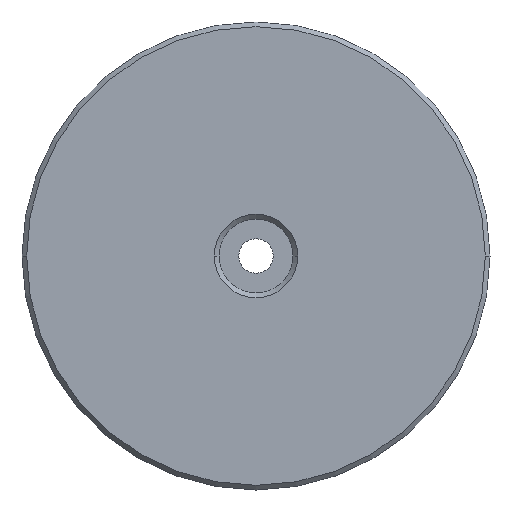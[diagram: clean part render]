
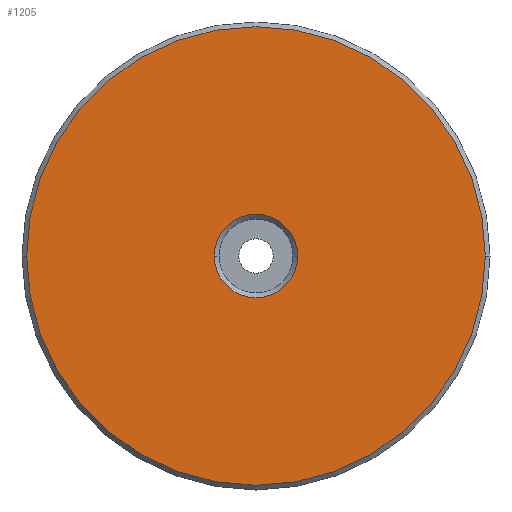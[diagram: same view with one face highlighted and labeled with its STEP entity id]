
A CAD part, front view. The second image highlights one B-rep face of the part: STEP entity #1205.
In plain terms, the highlighted planar face has unit normal (0, -1, 0).
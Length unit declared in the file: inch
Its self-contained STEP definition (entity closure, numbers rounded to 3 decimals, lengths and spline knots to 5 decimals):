
#67=CARTESIAN_POINT('',(0.,-0.125,0.));
#68=DIRECTION('',(0.,1.,0.));
#69=DIRECTION('',(1.,0.,0.));
#70=AXIS2_PLACEMENT_3D('',#67,#68,#69);
#72=CARTESIAN_POINT('',(0.,-0.125,0.));
#73=DIRECTION('',(0.,1.,0.));
#74=DIRECTION('',(-1.,0.,0.));
#75=AXIS2_PLACEMENT_3D('',#72,#73,#74);
#77=CARTESIAN_POINT('',(0.,-0.125,0.));
#78=DIRECTION('',(0.,-1.,0.));
#79=DIRECTION('',(1.,0.,0.));
#80=AXIS2_PLACEMENT_3D('',#77,#78,#79);
#82=CARTESIAN_POINT('',(0.,-0.125,0.));
#83=DIRECTION('',(0.,-1.,0.));
#84=DIRECTION('',(-1.,0.,0.));
#85=AXIS2_PLACEMENT_3D('',#82,#83,#84);
#1045=CARTESIAN_POINT('',(0.1335,-0.125,0.));
#1046=CARTESIAN_POINT('',(-0.1335,-0.125,0.));
#1047=VERTEX_POINT('',#1045);
#1048=VERTEX_POINT('',#1046);
#1053=CARTESIAN_POINT('',(0.735,-0.125,0.));
#1054=CARTESIAN_POINT('',(-0.735,-0.125,0.));
#1055=VERTEX_POINT('',#1053);
#1056=VERTEX_POINT('',#1054);
#1189=CARTESIAN_POINT('',(0.,-0.125,0.));
#1190=DIRECTION('',(0.,1.,0.));
#1191=DIRECTION('',(1.,0.,0.));
#1192=AXIS2_PLACEMENT_3D('',#1189,#1190,#1191);
#1193=PLANE('',#1192);
#1195=ORIENTED_EDGE('',*,*,#1194,.F.);
#1196=ORIENTED_EDGE('',*,*,#1179,.F.);
#1197=EDGE_LOOP('',(#1195,#1196));
#1198=FACE_OUTER_BOUND('',#1197,.F.);
#1200=ORIENTED_EDGE('',*,*,#1199,.F.);
#1202=ORIENTED_EDGE('',*,*,#1201,.F.);
#1203=EDGE_LOOP('',(#1200,#1202));
#1204=FACE_BOUND('',#1203,.F.);
#1205=ADVANCED_FACE('',(#1198,#1204),#1193,.F.);
#71=CIRCLE('',#70,0.1335);
#76=CIRCLE('',#75,0.1335);
#81=CIRCLE('',#80,0.735);
#86=CIRCLE('',#85,0.735);
#1179=EDGE_CURVE('',#1056,#1055,#86,.T.);
#1194=EDGE_CURVE('',#1055,#1056,#81,.T.);
#1199=EDGE_CURVE('',#1047,#1048,#71,.T.);
#1201=EDGE_CURVE('',#1048,#1047,#76,.T.);
